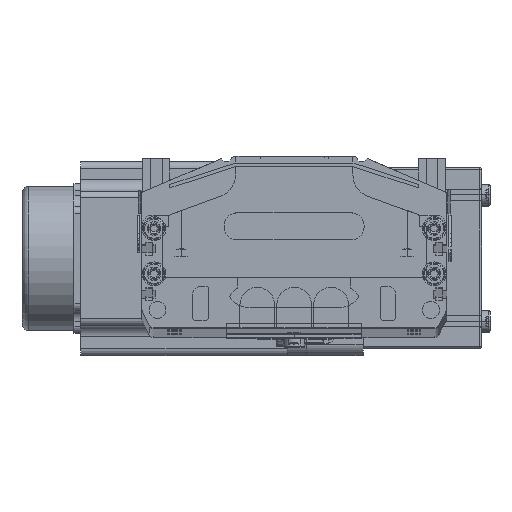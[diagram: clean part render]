
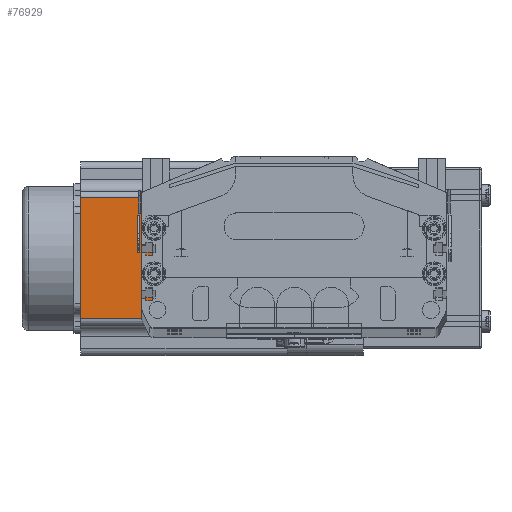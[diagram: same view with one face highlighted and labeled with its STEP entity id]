
A CAD part, top view. The second image highlights one B-rep face of the part: STEP entity #76929.
In plain terms, the highlighted planar face has unit normal (0, 0, 1) as drawn and (-1, 0, 0) by its records, which use the part's own axes.
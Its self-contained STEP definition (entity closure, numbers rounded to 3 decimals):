
#29053 = CARTESIAN_POINT ( 'NONE',  ( 0., 16.16, 91.5 ) ) ;
#29157 = LINE ( 'NONE', #29389, #29349 ) ;
#29162 = DIRECTION ( 'NONE',  ( 0., 0., -1. ) ) ;
#29164 = DIRECTION ( 'NONE',  ( 1., 0., 0. ) ) ;
#29185 = CARTESIAN_POINT ( 'NONE',  ( 0., 16.16, 91.5 ) ) ;
#29201 = DIRECTION ( 'NONE',  ( 0., -1., 0. ) ) ;
#29203 = VECTOR ( 'NONE', #29201, 1000. ) ;
#29208 = CARTESIAN_POINT ( 'NONE',  ( 0., 16.16, 0. ) ) ;
#29239 = DIRECTION ( 'NONE',  ( 0., 0., 1. ) ) ;
#29256 = CARTESIAN_POINT ( 'NONE',  ( 0., 69.74, 0. ) ) ;
#29271 = AXIS2_PLACEMENT_3D ( 'NONE', #29321, #29164, #29162 ) ;
#29321 = CARTESIAN_POINT ( 'NONE',  ( 0., 0., 91.5 ) ) ;
#29338 = CARTESIAN_POINT ( 'NONE',  ( 0., 0., 0. ) ) ;
#29339 = LINE ( 'NONE', #29338, #29203 ) ;
#29340 = DIRECTION ( 'NONE',  ( 0., 0., -1. ) ) ;
#29341 = VECTOR ( 'NONE', #29340, 1000. ) ;
#29347 = CARTESIAN_POINT ( 'NONE',  ( 0., 69.74, 91.5 ) ) ;
#29348 = LINE ( 'NONE', #29347, #29341 ) ;
#29349 = VECTOR ( 'NONE', #29388, 1000. ) ;
#29352 = LINE ( 'NONE', #29185, #29379 ) ;
#29379 = VECTOR ( 'NONE', #29239, 1000. ) ;
#29380 = PLANE ( 'NONE',  #29271 ) ;
#29385 = FACE_OUTER_BOUND ( 'NONE', #76985, .T. ) ;
#29388 = DIRECTION ( 'NONE',  ( 0., -1., 0. ) ) ;
#29389 = CARTESIAN_POINT ( 'NONE',  ( 0., 0., 91.5 ) ) ;
#74421 = VERTEX_POINT ( 'NONE', #81446 ) ;
#76851 = EDGE_CURVE ( 'NONE', #76853, #76927, #29352, .T. ) ;
#76852 = VERTEX_POINT ( 'NONE', #29256 ) ;
#76853 = VERTEX_POINT ( 'NONE', #29208 ) ;
#76927 = VERTEX_POINT ( 'NONE', #29053 ) ;
#76929 = ADVANCED_FACE ( 'NONE', ( #29385 ), #29380, .F. ) ;
#76930 = ORIENTED_EDGE ( 'NONE', *, *, #76851, .T. ) ;
#76935 = ORIENTED_EDGE ( 'NONE', *, *, #76936, .F. ) ;
#76936 = EDGE_CURVE ( 'NONE', #74421, #76927, #29157, .T. ) ;
#76939 = EDGE_CURVE ( 'NONE', #74421, #76852, #29348, .T. ) ;
#76942 = ORIENTED_EDGE ( 'NONE', *, *, #76939, .T. ) ;
#76979 = EDGE_CURVE ( 'NONE', #76852, #76853, #29339, .T. ) ;
#76985 = EDGE_LOOP ( 'NONE', ( #77164, #76930, #76935, #76942 ) ) ;
#77164 = ORIENTED_EDGE ( 'NONE', *, *, #76979, .T. ) ;
#81446 = CARTESIAN_POINT ( 'NONE',  ( 0., 69.74, 91.5 ) ) ;
